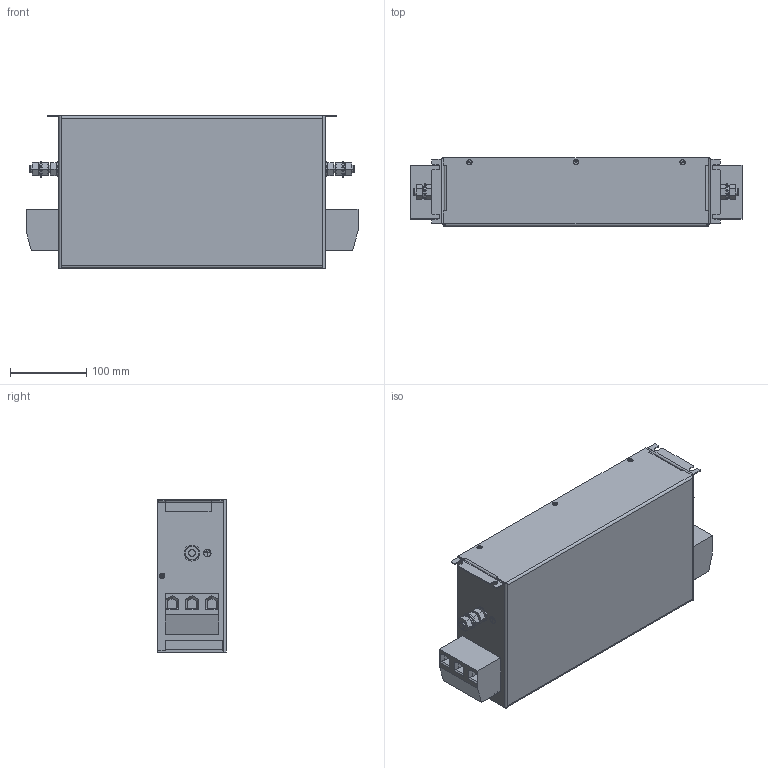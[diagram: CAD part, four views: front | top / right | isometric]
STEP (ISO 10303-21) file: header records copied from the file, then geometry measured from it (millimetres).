
FILE_DESCRIPTION((''),'2;1');
FILE_NAME('PRT0004','2021-11-19T',('EE7046'),(''),'CREO PARAMETRIC BY PTC INC, 2018220','CREO PARAMETRIC BY PTC INC, 2018220','');
FILE_SCHEMA(('AUTOMOTIVE_DESIGN { 1 0 10303 214 1 1 1 1 }'));
Length unit declared in the file: millimetre
Products named in the file (1): PRT0004
Bounding box: 436 x 90 x 200.3 mm (x, y, z)
Volume: 658380.9 mm3; surface area: 544544.1 mm2
Topology: 1 solids, 37 shells, 1454 faces, 3504 edges, 2214 vertices
Faces by surface type: plane 800, cylinder 444, cone 140, bspline 50, torus 20
Entity records: 44877 total; most frequent: CARTESIAN_POINT 10427, DIRECTION 7276, ORIENTED_EDGE 7008, EDGE_CURVE 3504, AXIS2_PLACEMENT_3D 2580, VERTEX_POINT 2214, VECTOR 2116, LINE 2116
